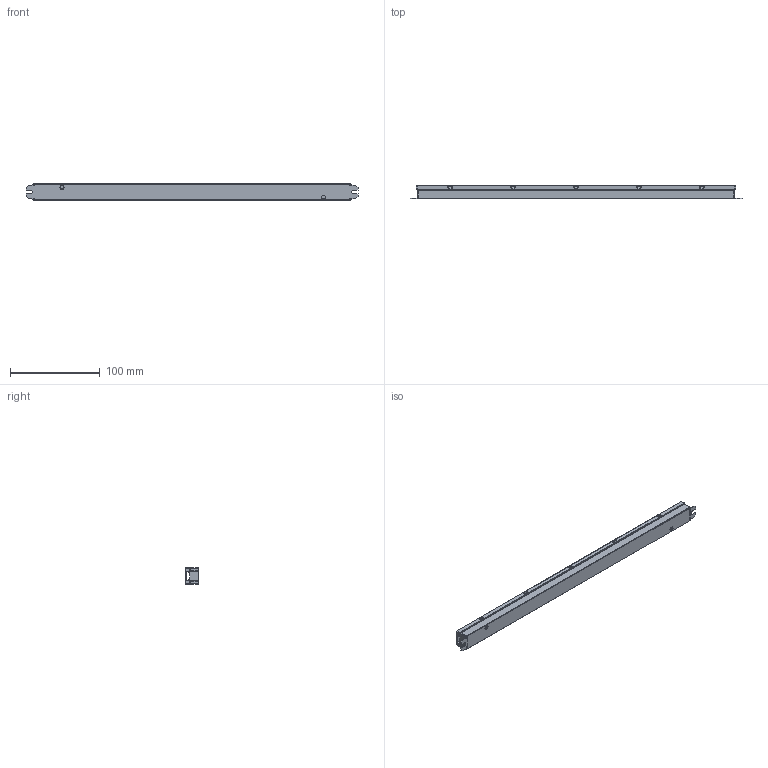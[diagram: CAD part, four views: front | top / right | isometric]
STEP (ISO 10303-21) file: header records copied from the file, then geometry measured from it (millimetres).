
FILE_DESCRIPTION((''),'2;1');
FILE_NAME('80W_CASE_ASM','2025-08-13T17:38:47',('Administrator'),(''),'CREO PARAMETRIC BY PTC INC, 2020053','CREO PARAMETRIC BY PTC INC, 2020053','');
FILE_SCHEMA(('CONFIG_CONTROL_DESIGN','SHAPE_APPEARANCE_LAYERS_GROUPS'));
Length unit declared in the file: millimetre
Products named in the file (5): 80W_BOTTOM; 80W_TOP; 80W_CEGAI; LUOZHU-M2; 80W_CASE_ASM
Assembly tree (6 placements, depth 2):
  80W_CASE_ASM
    80W_BOTTOM
    80W_TOP
    80W_CEGAI  x2
    LUOZHU-M2  x2
Bounding box: 370 x 15.5 x 18.7 mm (x, y, z)
Volume: 13952.6 mm3; surface area: 55396.3 mm2
Topology: 6 solids, 6 shells, 580 faces, 1396 edges, 832 vertices
Faces by surface type: plane 318, cylinder 170, bspline 92
Entity records: 27211 total; most frequent: CARTESIAN_POINT 8576, ORIENTED_EDGE 2530, DIRECTION 2096, PRESENTATION_STYLE_ASSIGNMENT 1617, STYLED_ITEM 1617, EDGE_CURVE 1265, CURVE_STYLE 1134, VECTOR 856
